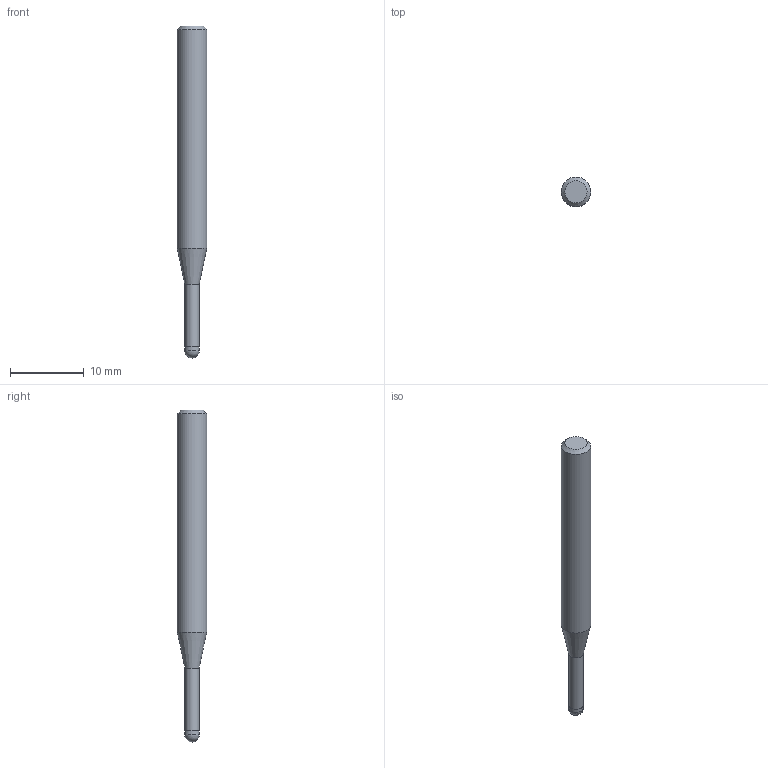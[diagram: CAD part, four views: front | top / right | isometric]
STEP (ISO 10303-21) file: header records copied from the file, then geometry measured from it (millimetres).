
FILE_DESCRIPTION((''),'2;1');
FILE_NAME('C:\Users\nsx150\AppData\Local\Temp\Mastercam 2021\ARV7HD45SN\TEMP.step','2023-06-13T16:37:27',(''),(''),'STEP Write','Mastercam 2021 ... CNC Software, Inc.','');
FILE_SCHEMA(('AUTOMOTIVE_DESIGN'));
Length unit declared in the file: millimetre
Products named in the file (1): None
Bounding box: 4 x 4 x 45 mm (x, y, z)
Volume: 441.2 mm3; surface area: 501 mm2
Topology: 2 solids, 2 shells, 9 faces, 14 edges, 8 vertices
Faces by surface type: plane 3, cylinder 3, cone 2, sphere 1
Full cylindrical faces by diameter (mm): 1.94 x1, 2 x1, 4 x1
Entity records: 211 total; most frequent: DIRECTION 36, CARTESIAN_POINT 25, AXIS2_PLACEMENT_3D 18, ORIENTED_EDGE 14, EDGE_LOOP 14, STYLED_ITEM 12, ADVANCED_FACE 9, FACE_BOUND 8
